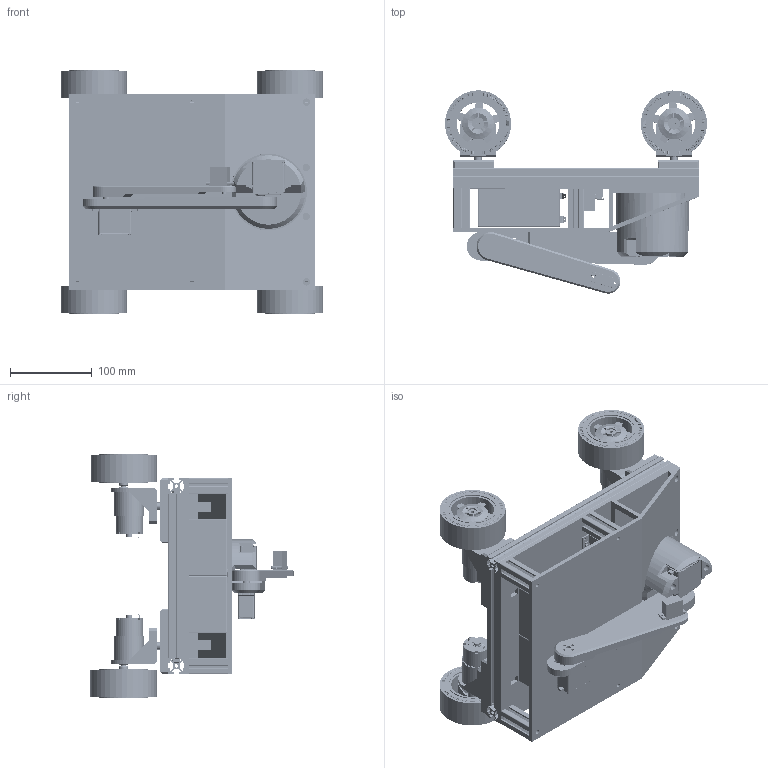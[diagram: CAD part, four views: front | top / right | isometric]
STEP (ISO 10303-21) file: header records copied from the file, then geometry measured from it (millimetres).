
FILE_DESCRIPTION(/* description */ (''),/* implementation_level */ '2;1');
FILE_NAME(/* name */ 'Assieme_drone2.stp',/* time_stamp */ '2025-06-14T11:58:19+02:00',/* author */ ('R5800u'),/* organization */ (''),/* preprocessor_version */ 'ST-DEVELOPER v20',/* originating_system */ 'Autodesk Inventor 2025',/* authorisation */ '');
FILE_SCHEMA (('AUTOMOTIVE_DESIGN { 1 0 10303 214 3 1 1 }'));
Products named in the file (129): Assieme_drone2; tslot-20x20-1; tslot-20x20-1_MIR; tslot-20x20-2; pianoA; batteira_6V_LIFEPO4; L298N; Assembly; pcb; JST - PH - SMD (R) - 2Pin - 2.00mm; pinheaderyellow; COMPOUND; COMPOUND_1; COMPOUND_2; COMPOUND_3; COMPOUND_4; COMPOUND_5; COMPOUND_6; COMPOUND_7; COMPOUND_8; COMPOUND_9; COMPOUND_10; COMPOUND_11; COMPOUND_12; COMPOUND_13; COMPOUND_14; COMPOUND_15; COMPOUND_16; COMPOUND_17; pinheader8Red; COMPOUND_18; COMPOUND_19; COMPOUND_20; COMPOUND_21; COMPOUND_22; COMPOUND_23; COMPOUND_24; COMPOUND_25; COMPOUND_26; COMPOUND_27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
Assembly tree (148 placements, depth 5):
  Assieme_drone2
    tslot-20x20-1
    tslot-20x20-1_MIR
    tslot-20x20-2  x3
    SNSD20x20_MIR  x2
    SNSD20x20  x2
    tslot-20x20-3  x4
    pianoA
    batteira_6V_LIFEPO4  x2
    L298N  x2
    Assembly
      pcb
      pinheaderyellow  x2
        COMPOUND
          COMPOUND_1
          COMPOUND_2
          COMPOUND_3
          COMPOUND_4
          COMPOUND_5
          COMPOUND_6
          COMPOUND_7
          COMPOUND_8
        COMPOUND_9
          COMPOUND_10
          COMPOUND_11
          COMPOUND_12
          COMPOUND_13
          COMPOUND_14
          COMPOUND_15
          COMPOUND_16
          COMPOUND_17
      pinheader8Red  x2
        COMPOUND_18
          COMPOUND_19
          COMPOUND_20
          COMPOUND_21
          COMPOUND_22
          COMPOUND_23
          COMPOUND_24
          COMPOUND_25
          COMPOUND_26
        COMPOUND_27
          COMPOUND_28
          COMPOUND_29
          COMPOUND_30
          COMPOUND_31
          COMPOUND_32
          COMPOUND_33
          COMPOUND_34
          COMPOUND_35
      pinheader8Black  x2
        COMPOUND_36
          COMPOUND_37
          COMPOUND_38
          COMPOUND_39
          COMPOUND_40
          COMPOUND_41
          COMPOUND_42
          COMPOUND_43
          COMPOUND_44
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Bounding box: 320.67 x 248.51 x 297.7 mm (x, y, z)
Volume: 2900764.4 mm3; surface area: 1217561.2 mm2
Topology: 191 solids, 275 shells, 14183 faces, 36768 edges, 23574 vertices
Faces by surface type: plane 10469, cylinder 2570, bspline 408, sphere 274, cone 260, torus 202
Full cylindrical faces by diameter (mm): 0.6 x2, 0.7 x64, 1 x32, 1.5 x1, 1.6 x12, 1.8 x1, 2 x18, 2.1 x2, 2.25 x8, 2.459 x4, 2.5 x34, 2.55 x16, 2.6 x12, 3 x20, 3.175 x8, 3.191 x2, 3.2 x16, 3.3 x40, 3.375 x8, 3.4 x36, 3.5 x38, 3.733 x36, 4 x23, 4.2 x23, 4.3 x4, 4.5 x24, 4.7 x1, 4.901 x4, 5 x19, 5.5 x28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
Entity records: 306114 total; most frequent: CARTESIAN_POINT 64604, ORIENTED_EDGE 47940, DIRECTION 46740, EDGE_CURVE 24082, LINE 18052, VECTOR 18052, VERTEX_POINT 15384, AXIS2_PLACEMENT_3D 14344
